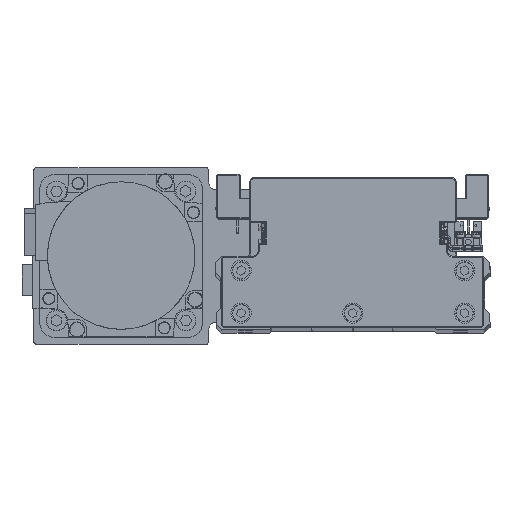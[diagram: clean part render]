
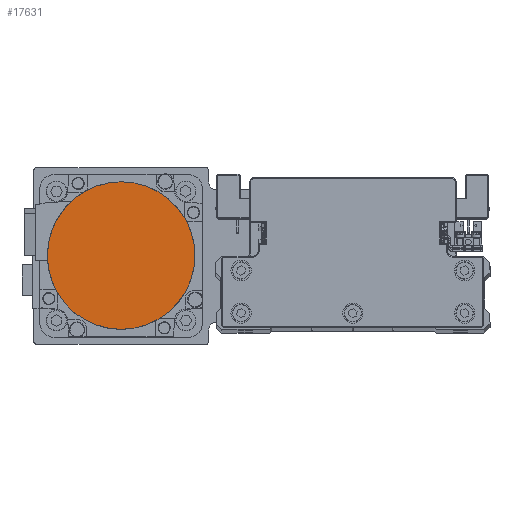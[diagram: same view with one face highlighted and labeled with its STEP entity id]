
A CAD part, top view. The second image highlights one B-rep face of the part: STEP entity #17631.
In plain terms, the highlighted planar face has unit normal (0, 0, 1) as drawn and (0, 0, -1) by its records, which use the part's own axes.
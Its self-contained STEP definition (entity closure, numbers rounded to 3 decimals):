
#1666 = PLANE ( 'NONE',  #13569 ) ;
#2241 = VERTEX_POINT ( 'NONE', #7843 ) ;
#5574 = DIRECTION ( 'NONE',  ( 0., 0., 1. ) ) ;
#7843 = CARTESIAN_POINT ( 'NONE',  ( 0., 36.3, -122.2 ) ) ;
#8988 = AXIS2_PLACEMENT_3D ( 'NONE', #33530, #5574, #18015 ) ;
#12188 = CARTESIAN_POINT ( 'NONE',  ( 0., 0., -122.2 ) ) ;
#13569 = AXIS2_PLACEMENT_3D ( 'NONE', #14102, #26531, #38989 ) ;
#14102 = CARTESIAN_POINT ( 'NONE',  ( 0., 0., -122.2 ) ) ;
#16776 = AXIS2_PLACEMENT_3D ( 'NONE', #12188, #24627, #37079 ) ;
#17142 = ORIENTED_EDGE ( 'NONE', *, *, #23383, .F. ) ;
#17631 = ADVANCED_FACE ( 'NONE', ( #29607 ), #1666, .F. ) ;
#18015 = DIRECTION ( 'NONE',  ( 0., -1., 0. ) ) ;
#23383 = EDGE_CURVE ( 'NONE', #2241, #23964, #34391, .T. ) ;
#23964 = VERTEX_POINT ( 'NONE', #38166 ) ;
#24627 = DIRECTION ( 'NONE',  ( 0., 0., 1. ) ) ;
#25194 = EDGE_LOOP ( 'NONE', ( #17142, #36667 ) ) ;
#26531 = DIRECTION ( 'NONE',  ( 0., 0., 1. ) ) ;
#26557 = CIRCLE ( 'NONE', #8988, 36.3 ) ;
#29607 = FACE_OUTER_BOUND ( 'NONE', #25194, .T. ) ;
#33530 = CARTESIAN_POINT ( 'NONE',  ( 0., 0., -122.2 ) ) ;
#34391 = CIRCLE ( 'NONE', #16776, 36.3 ) ;
#36667 = ORIENTED_EDGE ( 'NONE', *, *, #38580, .F. ) ;
#37079 = DIRECTION ( 'NONE',  ( 0., 1., 0. ) ) ;
#38166 = CARTESIAN_POINT ( 'NONE',  ( 0., -36.3, -122.2 ) ) ;
#38580 = EDGE_CURVE ( 'NONE', #23964, #2241, #26557, .T. ) ;
#38989 = DIRECTION ( 'NONE',  ( 1., 0., 0. ) ) ;
